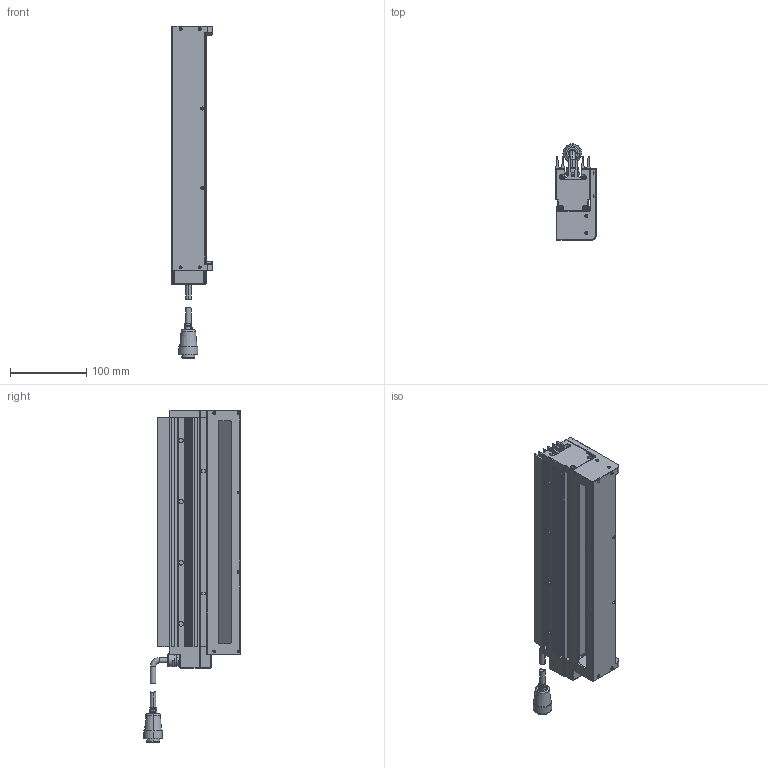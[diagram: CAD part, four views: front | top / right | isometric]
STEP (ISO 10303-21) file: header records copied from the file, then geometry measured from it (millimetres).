
FILE_DESCRIPTION((''),'2;1');
FILE_NAME('2','2020-12-16T',('win 10'),(''),'PRO/ENGINEER BY PARAMETRIC TECHNOLOGY CORPORATION, 2010100','PRO/ENGINEER BY PARAMETRIC TECHNOLOGY CORPORATION, 2010100','');
FILE_SCHEMA(('CONFIG_CONTROL_DESIGN'));
Length unit declared in the file: millimetre
Products named in the file (1): 2
Bounding box: 53 x 126.4 x 434.5 mm (x, y, z)
Volume: 855078.6 mm3; surface area: 316550.3 mm2
Topology: 4 solids, 25 shells, 1056 faces, 2764 edges, 1755 vertices
Faces by surface type: plane 553, cylinder 382, cone 99, torus 14, bspline 8
Entity records: 32933 total; most frequent: CARTESIAN_POINT 6334, DIRECTION 5757, ORIENTED_EDGE 5364, EDGE_CURVE 2732, AXIS2_PLACEMENT_3D 2022, VERTEX_POINT 1755, VECTOR 1713, LINE 1713
